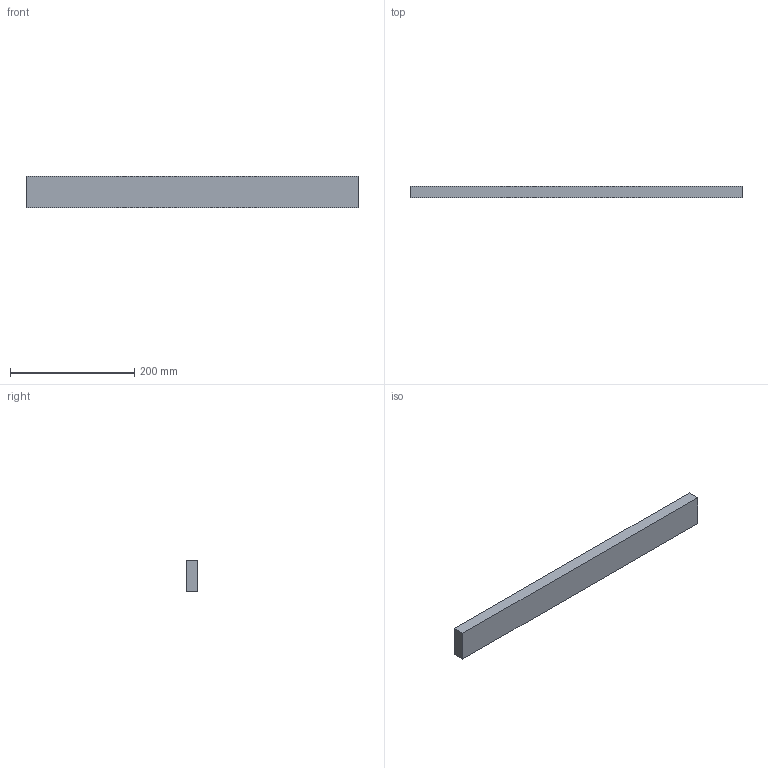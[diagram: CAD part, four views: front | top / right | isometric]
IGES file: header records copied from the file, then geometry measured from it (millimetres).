
Start section:  PTC IGES file: C:\Documents and Settings\Brad\Desktop\IGES\front_corner _block.igs
Global section: file name: C:\Documents and Settings\Brad\Desktop\IGES\front_corner_block.igs; native system: Brad by Parametric Technology Corporation; preprocessor: 2003250; author: Unknown; organization: PTC; date: 040521.142625; units: inch
Bounding box: 533.4 x 19.05 x 50.8 mm (x, y, z)
Volume: 516192.5 mm3; surface area: 76451.5 mm2
Topology: 1 solids, 1 shells, 6 faces, 12 edges, 8 vertices
Faces by surface type: bspline 6
